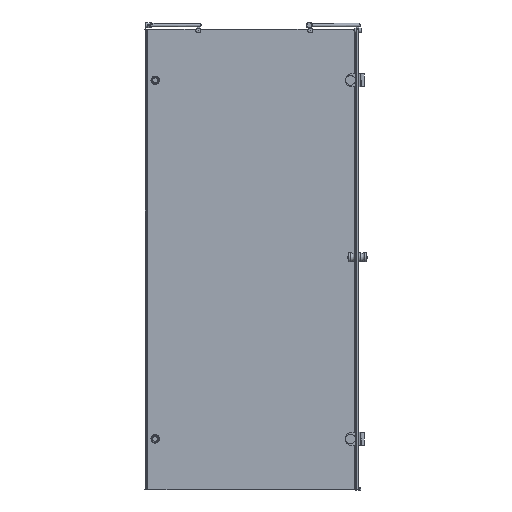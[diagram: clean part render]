
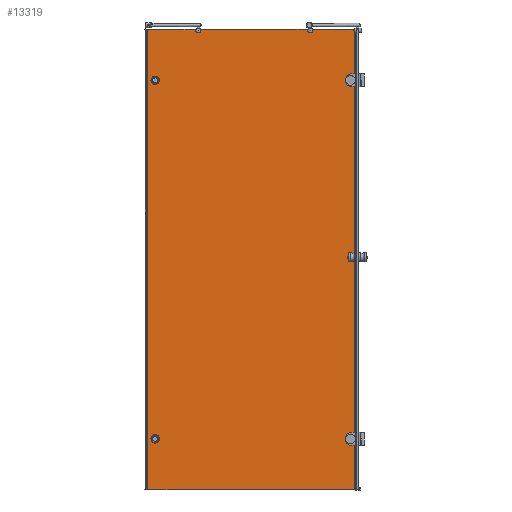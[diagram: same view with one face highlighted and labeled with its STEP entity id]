
A CAD part, front view. The second image highlights one B-rep face of the part: STEP entity #13319.
In plain terms, the highlighted planar face has unit normal (0, -1, 0).
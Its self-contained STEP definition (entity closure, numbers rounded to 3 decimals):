
#143=LINE($,#19810,#1430);
#144=LINE($,#19812,#1431);
#145=LINE($,#19814,#1432);
#146=LINE($,#19816,#1433);
#147=LINE($,#19818,#1434);
#148=LINE($,#19821,#1435);
#1430=VECTOR($,#15565,198.474);
#1431=VECTOR($,#15566,1900.);
#1432=VECTOR($,#15567,853.3);
#1433=VECTOR($,#15568,1900.);
#1434=VECTOR($,#15569,174.531);
#1435=VECTOR($,#15572,444.574);
#2950=FACE_BOUND($,#3915,.T.);
#2951=FACE_BOUND($,#3916,.T.);
#2952=FACE_BOUND($,#3917,.T.);
#2953=FACE_BOUND($,#3918,.T.);
#2954=FACE_BOUND($,#3919,.T.);
#3915=EDGE_LOOP($,(#8514));
#3916=EDGE_LOOP($,(#8515));
#3917=EDGE_LOOP($,(#8516));
#3918=EDGE_LOOP($,(#8517));
#3919=EDGE_LOOP($,(#8518,#8519,#8520,#8521,#8522,#8523,#8524,#8525));
#4818=CIRCLE($,#14133,10.);
#4827=CIRCLE($,#14155,15.);
#4828=CIRCLE($,#14156,15.);
#4829=CIRCLE($,#14157,4.);
#4830=CIRCLE($,#14158,4.);
#4831=CIRCLE($,#14159,10.);
#5344=VERTEX_POINT($,#19597);
#5345=VERTEX_POINT($,#19599);
#5362=VERTEX_POINT($,#19801);
#5363=VERTEX_POINT($,#19803);
#5364=VERTEX_POINT($,#19805);
#5365=VERTEX_POINT($,#19807);
#5366=VERTEX_POINT($,#19809);
#5367=VERTEX_POINT($,#19811);
#5368=VERTEX_POINT($,#19813);
#5369=VERTEX_POINT($,#19815);
#5370=VERTEX_POINT($,#19817);
#5371=VERTEX_POINT($,#19819);
#6559=EDGE_CURVE($,#5344,#5345,#4818,.T.);
#6583=EDGE_CURVE($,#5362,#5362,#4827,.T.);
#6584=EDGE_CURVE($,#5363,#5363,#4828,.T.);
#6585=EDGE_CURVE($,#5364,#5364,#4829,.T.);
#6586=EDGE_CURVE($,#5365,#5365,#4830,.T.);
#6587=EDGE_CURVE($,#5366,#5344,#143,.T.);
#6588=EDGE_CURVE($,#5367,#5366,#144,.T.);
#6589=EDGE_CURVE($,#5367,#5368,#145,.T.);
#6590=EDGE_CURVE($,#5369,#5368,#146,.T.);
#6591=EDGE_CURVE($,#5370,#5369,#147,.T.);
#6592=EDGE_CURVE($,#5371,#5370,#4831,.T.);
#6593=EDGE_CURVE($,#5345,#5371,#148,.T.);
#8514=ORIENTED_EDGE($,*,*,#6583,.F.);
#8515=ORIENTED_EDGE($,*,*,#6584,.F.);
#8516=ORIENTED_EDGE($,*,*,#6585,.F.);
#8517=ORIENTED_EDGE($,*,*,#6586,.F.);
#8518=ORIENTED_EDGE($,*,*,#6559,.F.);
#8519=ORIENTED_EDGE($,*,*,#6587,.F.);
#8520=ORIENTED_EDGE($,*,*,#6588,.F.);
#8521=ORIENTED_EDGE($,*,*,#6589,.T.);
#8522=ORIENTED_EDGE($,*,*,#6590,.F.);
#8523=ORIENTED_EDGE($,*,*,#6591,.F.);
#8524=ORIENTED_EDGE($,*,*,#6592,.F.);
#8525=ORIENTED_EDGE($,*,*,#6593,.F.);
#11997=PLANE($,#14154);
#13319=ADVANCED_FACE($,(#2950,#2951,#2952,#2953,#2954),#11997,.F.);
#14133=AXIS2_PLACEMENT_3D($,#19600,#15506,#15507);
#14154=AXIS2_PLACEMENT_3D($,#19800,#15555,#15556);
#14155=AXIS2_PLACEMENT_3D($,#19802,#15557,#15558);
#14156=AXIS2_PLACEMENT_3D($,#19804,#15559,#15560);
#14157=AXIS2_PLACEMENT_3D($,#19806,#15561,#15562);
#14158=AXIS2_PLACEMENT_3D($,#19808,#15563,#15564);
#14159=AXIS2_PLACEMENT_3D($,#19820,#15570,#15571);
#15506=DIRECTION('center_axis',(0.,-1.,0.));
#15507=DIRECTION('ref_axis',(-0.597,0.,0.802));
#15555=DIRECTION('center_axis',(0.,1.,0.));
#15556=DIRECTION('ref_axis',(1.,0.,0.));
#15557=DIRECTION('center_axis',(0.,-1.,0.));
#15558=DIRECTION('ref_axis',(1.,0.,0.));
#15559=DIRECTION('center_axis',(0.,-1.,0.));
#15560=DIRECTION('ref_axis',(1.,0.,0.));
#15561=DIRECTION('center_axis',(0.,-1.,0.));
#15562=DIRECTION('ref_axis',(-1.,0.,0.));
#15563=DIRECTION('center_axis',(0.,-1.,0.));
#15564=DIRECTION('ref_axis',(-1.,0.,0.));
#15565=DIRECTION($,(1.,0.,0.));
#15566=DIRECTION($,(0.,0.,1.));
#15567=DIRECTION($,(1.,0.,0.));
#15568=DIRECTION($,(0.,0.,-1.));
#15569=DIRECTION($,(1.,0.,0.));
#15570=DIRECTION('center_axis',(0.,-1.,0.));
#15571=DIRECTION('ref_axis',(-0.947,0.,-0.322));
#15572=DIRECTION($,(1.,0.,0.));
#19597=CARTESIAN_POINT('',(576.493,-158.044,1385.944));
#19599=CARTESIAN_POINT('',(594.353,-158.044,1385.944));
#19600=CARTESIAN_POINT('Origin',(585.423,-158.044,1381.444));
#19800=CARTESIAN_POINT('Origin',(373.019,-158.044,1385.944));
#19801=CARTESIAN_POINT('',(393.019,-158.044,1175.944));
#19802=CARTESIAN_POINT('Origin',(408.019,-158.044,1175.944));
#19803=CARTESIAN_POINT('',(393.019,-158.044,-304.056));
#19804=CARTESIAN_POINT('Origin',(408.019,-158.044,-304.056));
#19805=CARTESIAN_POINT('',(1218.019,-158.044,1175.944));
#19806=CARTESIAN_POINT('Origin',(1214.019,-158.044,1175.944));
#19807=CARTESIAN_POINT('',(1218.019,-158.044,-304.056));
#19808=CARTESIAN_POINT('Origin',(1214.019,-158.044,-304.056));
#19809=CARTESIAN_POINT('',(378.019,-158.044,1385.944));
#19810=CARTESIAN_POINT($,(373.019,-158.044,1385.944));
#19811=CARTESIAN_POINT('',(378.019,-158.044,-514.056));
#19812=CARTESIAN_POINT($,(378.019,-158.044,435.944));
#19813=CARTESIAN_POINT('',(1231.319,-158.044,-514.056));
#19814=CARTESIAN_POINT($,(373.019,-158.044,-514.056));
#19815=CARTESIAN_POINT('',(1231.319,-158.044,1385.944));
#19816=CARTESIAN_POINT($,(1231.319,-158.044,435.944));
#19817=CARTESIAN_POINT('',(1056.788,-158.044,1385.944));
#19818=CARTESIAN_POINT($,(373.019,-158.044,1385.944));
#19819=CARTESIAN_POINT('',(1038.927,-158.044,1385.944));
#19820=CARTESIAN_POINT('Origin',(1047.857,-158.044,1381.444));
#19821=CARTESIAN_POINT($,(373.019,-158.044,1385.944));
